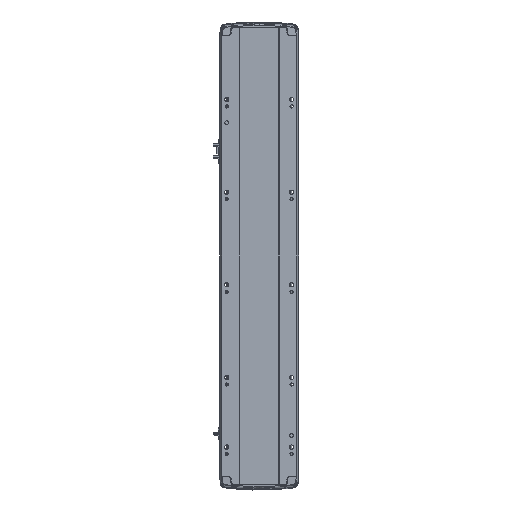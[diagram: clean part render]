
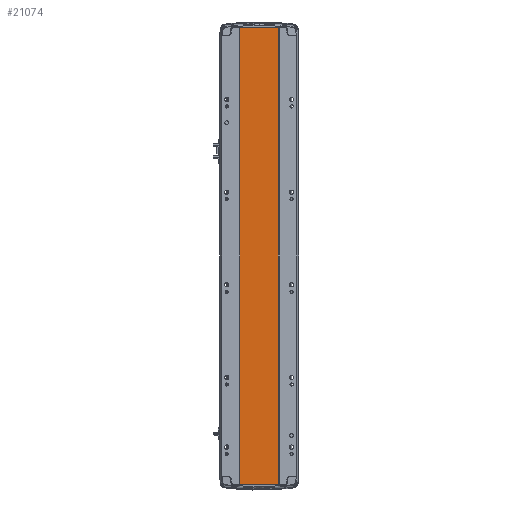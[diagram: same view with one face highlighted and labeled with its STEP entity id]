
A CAD part, front view. The second image highlights one B-rep face of the part: STEP entity #21074.
In plain terms, the highlighted planar face has unit normal (0, -1, 0).
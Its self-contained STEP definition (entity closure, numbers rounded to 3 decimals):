
#674 = VERTEX_POINT ( 'NONE', #14090 ) ;
#1342 = LINE ( 'NONE', #2046, #5739 ) ;
#1432 = EDGE_CURVE ( 'NONE', #22055, #674, #21978, .T. ) ;
#2046 = CARTESIAN_POINT ( 'NONE',  ( -41.791, 1., 984.5 ) ) ;
#3889 = CARTESIAN_POINT ( 'NONE',  ( 0., 0.999, 0. ) ) ;
#5316 = EDGE_CURVE ( 'NONE', #23795, #674, #13871, .T. ) ;
#5546 = VECTOR ( 'NONE', #25924, 1000. ) ;
#5739 = VECTOR ( 'NONE', #33232, 1000. ) ;
#6899 = DIRECTION ( 'NONE',  ( 1., 0., 0. ) ) ;
#9243 = VECTOR ( 'NONE', #6899, 1000. ) ;
#10009 = FACE_OUTER_BOUND ( 'NONE', #34627, .T. ) ;
#13462 = ORIENTED_EDGE ( 'NONE', *, *, #5316, .F. ) ;
#13871 = LINE ( 'NONE', #38303, #5546 ) ;
#14090 = CARTESIAN_POINT ( 'NONE',  ( 41.793, 0.998, 0. ) ) ;
#14746 = ORIENTED_EDGE ( 'NONE', *, *, #1432, .T. ) ;
#15272 = ORIENTED_EDGE ( 'NONE', *, *, #32974, .T. ) ;
#18892 = CARTESIAN_POINT ( 'NONE',  ( -41.791, 1., 984.5 ) ) ;
#19075 = ORIENTED_EDGE ( 'NONE', *, *, #28042, .F. ) ;
#20458 = AXIS2_PLACEMENT_3D ( 'NONE', #24112, #20947, #37073 ) ;
#20810 = PLANE ( 'NONE',  #20458 ) ;
#20947 = DIRECTION ( 'NONE',  ( 0., 1., 0. ) ) ;
#21074 = ADVANCED_FACE ( 'NONE', ( #10009 ), #20810, .F. ) ;
#21978 = LINE ( 'NONE', #3889, #9243 ) ;
#22055 = VERTEX_POINT ( 'NONE', #36978 ) ;
#23795 = VERTEX_POINT ( 'NONE', #24462 ) ;
#24112 = CARTESIAN_POINT ( 'NONE',  ( 0., 0.999, 984.5 ) ) ;
#24254 = VECTOR ( 'NONE', #38890, 1000. ) ;
#24462 = CARTESIAN_POINT ( 'NONE',  ( 41.793, 0.998, 984.5 ) ) ;
#25137 = CARTESIAN_POINT ( 'NONE',  ( 0., 0.999, 984.5 ) ) ;
#25924 = DIRECTION ( 'NONE',  ( 0., 0., -1. ) ) ;
#28042 = EDGE_CURVE ( 'NONE', #32894, #23795, #37593, .T. ) ;
#32894 = VERTEX_POINT ( 'NONE', #18892 ) ;
#32974 = EDGE_CURVE ( 'NONE', #32894, #22055, #1342, .T. ) ;
#33232 = DIRECTION ( 'NONE',  ( 0., 0., -1. ) ) ;
#34627 = EDGE_LOOP ( 'NONE', ( #14746, #13462, #19075, #15272 ) ) ;
#36978 = CARTESIAN_POINT ( 'NONE',  ( -41.791, 1., 0. ) ) ;
#37073 = DIRECTION ( 'NONE',  ( -1., 0., 0. ) ) ;
#37593 = LINE ( 'NONE', #25137, #24254 ) ;
#38303 = CARTESIAN_POINT ( 'NONE',  ( 41.793, 0.998, 984.5 ) ) ;
#38890 = DIRECTION ( 'NONE',  ( 1., 0., 0. ) ) ;
